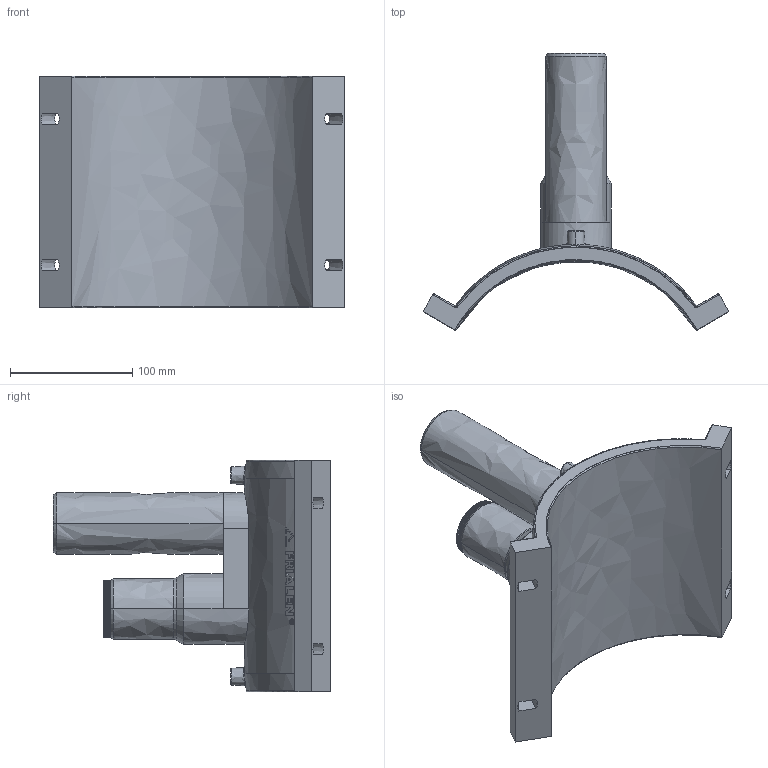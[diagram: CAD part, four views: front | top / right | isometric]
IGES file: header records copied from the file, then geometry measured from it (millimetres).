
Start section:  PTC IGES file: dap_d225_50_01.igs
Global section: file name: dap_d225_50_01.igs; native system: Pro/ENGINEER by Parametric Technology Corporation; preprocessor: 2011490; author: mtunjic; organization: Unknown; date: 20130909.081633; units: millimetre
Bounding box: 250.65 x 227 x 190 mm (x, y, z)
Surface area: 183761.7 mm2 (no closed solid volume)
Topology: 0 solids, 0 shells, 736 faces, 4204 edges, 4203 vertices
Faces by surface type: bspline 736
